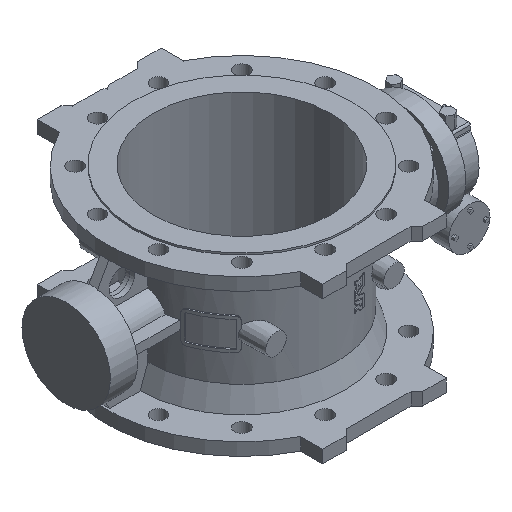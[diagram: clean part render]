
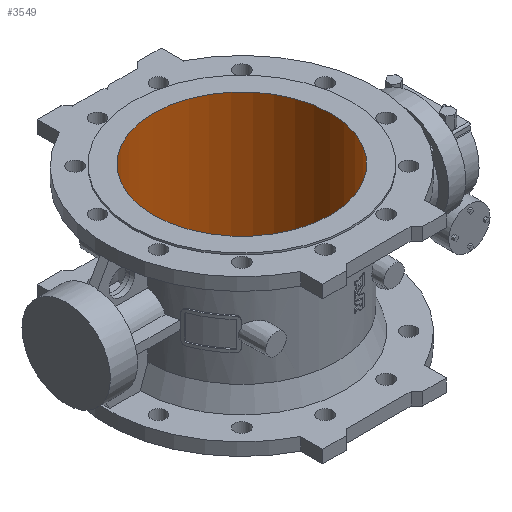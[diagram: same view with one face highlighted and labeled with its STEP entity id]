
A CAD part, isometric view. The second image highlights one B-rep face of the part: STEP entity #3549.
In plain terms, the highlighted cylindrical face has radius 150 mm (diameter 300 mm), a full revolution.
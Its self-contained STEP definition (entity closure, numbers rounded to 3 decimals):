
#1285 = EDGE_CURVE ( 'NONE', #6960, #6960, #9994, .T. ) ;
#1394 = EDGE_CURVE ( 'NONE', #6972, #6972, #10149, .T. ) ;
#2556 = ORIENTED_EDGE ( 'NONE', *, *, #1394, .F. ) ;
#2557 = ORIENTED_EDGE ( 'NONE', *, *, #1285, .T. ) ;
#3549 = ADVANCED_FACE ( 'NONE', ( #7307, #7301 ), #7311, .F. ) ;
#4160 = CARTESIAN_POINT ( 'NONE',  ( 0., -156., -135. ) ) ;
#4172 = CARTESIAN_POINT ( 'NONE',  ( 0., 144., 135. ) ) ;
#5758 = DIRECTION ( 'NONE',  ( 0., 1., 0. ) ) ;
#5759 = DIRECTION ( 'NONE',  ( 0., 0., -1. ) ) ;
#5762 = CARTESIAN_POINT ( 'NONE',  ( 0., -6., -133.661 ) ) ;
#6960 = VERTEX_POINT ( 'NONE', #4160 ) ;
#6972 = VERTEX_POINT ( 'NONE', #4172 ) ;
#7301 = FACE_OUTER_BOUND ( 'NONE', #8490, .T. ) ;
#7307 = FACE_OUTER_BOUND ( 'NONE', #8491, .T. ) ;
#7311 = CYLINDRICAL_SURFACE ( 'NONE', #18710, 150. ) ;
#8490 = EDGE_LOOP ( 'NONE', ( #2557 ) ) ;
#8491 = EDGE_LOOP ( 'NONE', ( #2556 ) ) ;
#9994 = CIRCLE ( 'NONE', #14228, 150. ) ;
#10149 = CIRCLE ( 'NONE', #14205, 150. ) ;
#14205 = AXIS2_PLACEMENT_3D ( 'NONE', #18596, #18595, #18594 ) ;
#14228 = AXIS2_PLACEMENT_3D ( 'NONE', #16186, #16185, #16184 ) ;
#16184 = DIRECTION ( 'NONE',  ( 0., -1., 0. ) ) ;
#16185 = DIRECTION ( 'NONE',  ( 0., 0., -1. ) ) ;
#16186 = CARTESIAN_POINT ( 'NONE',  ( 0., -6., -135. ) ) ;
#18594 = DIRECTION ( 'NONE',  ( 0., 1., 0. ) ) ;
#18595 = DIRECTION ( 'NONE',  ( 0., 0., -1. ) ) ;
#18596 = CARTESIAN_POINT ( 'NONE',  ( 0., -6., 135. ) ) ;
#18710 = AXIS2_PLACEMENT_3D ( 'NONE', #5762, #5759, #5758 ) ;
